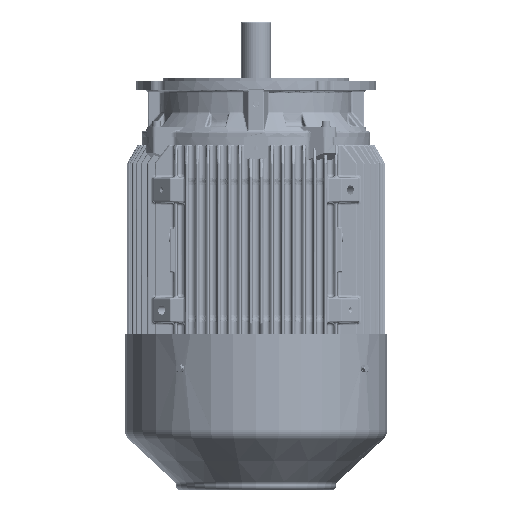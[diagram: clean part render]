
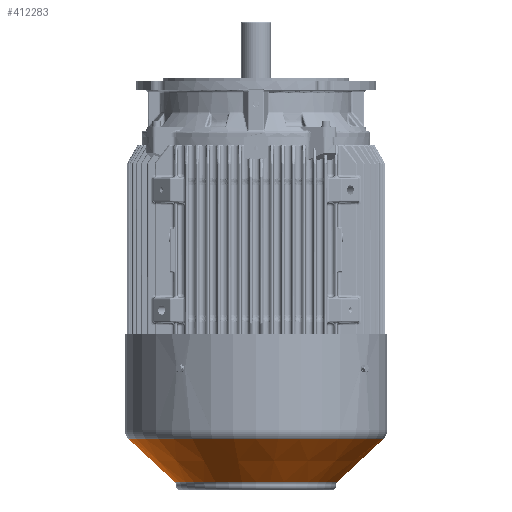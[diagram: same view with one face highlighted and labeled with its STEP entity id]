
A CAD part, front view. The second image highlights one B-rep face of the part: STEP entity #412283.
In plain terms, the highlighted conical face has half-angle 47 degrees and reference radius 152.544 mm.
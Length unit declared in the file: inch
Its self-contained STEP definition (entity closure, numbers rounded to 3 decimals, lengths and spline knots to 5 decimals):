
#23706 = EDGE_CURVE ( 'NONE', #149684, #278022, #447444, .T. ) ;
#52197 = EDGE_LOOP ( 'NONE', ( #348780, #286276, #327964, #424627 ) ) ;
#76951 = CARTESIAN_POINT ( 'NONE',  ( 9.35236, 0., -13.97297 ) ) ;
#81946 = CARTESIAN_POINT ( 'NONE',  ( 6.00567, 0., -17.09381 ) ) ;
#86023 = AXIS2_PLACEMENT_3D ( 'NONE', #98575, #355983, #250030 ) ;
#98575 = CARTESIAN_POINT ( 'NONE',  ( 0., 0., -17.09381 ) ) ;
#104312 = EDGE_CURVE ( 'NONE', #140787, #458358, #243752, .T. ) ;
#107944 = CARTESIAN_POINT ( 'NONE',  ( -6.00567, 0., -17.09381 ) ) ;
#140787 = VERTEX_POINT ( 'NONE', #81946 ) ;
#149684 = VERTEX_POINT ( 'NONE', #107944 ) ;
#182853 = CARTESIAN_POINT ( 'NONE',  ( -6.00567, 0., -17.09381 ) ) ;
#197283 = VECTOR ( 'NONE', #390546, 39.37008 ) ;
#213685 = VECTOR ( 'NONE', #262202, 39.37008 ) ;
#214647 = EDGE_CURVE ( 'NONE', #278022, #458358, #448356, .T. ) ;
#221737 = DIRECTION ( 'NONE',  ( 0., 0., 1. ) ) ;
#224153 = DIRECTION ( 'NONE',  ( 1., 0., 0. ) ) ;
#224369 = CIRCLE ( 'NONE', #86023, 6.00567 ) ;
#234856 = FACE_OUTER_BOUND ( 'NONE', #52197, .T. ) ;
#243752 = LINE ( 'NONE', #465112, #197283 ) ;
#250030 = DIRECTION ( 'NONE',  ( 1., 0., 0. ) ) ;
#260280 = CARTESIAN_POINT ( 'NONE',  ( 0., 0., -13.97297 ) ) ;
#262202 = DIRECTION ( 'NONE',  ( -0.731, 0., 0.682 ) ) ;
#278022 = VERTEX_POINT ( 'NONE', #372008 ) ;
#286276 = ORIENTED_EDGE ( 'NONE', *, *, #292768, .T. ) ;
#292768 = EDGE_CURVE ( 'NONE', #149684, #140787, #224369, .T. ) ;
#307934 = AXIS2_PLACEMENT_3D ( 'NONE', #458574, #381637, #309505 ) ;
#309505 = DIRECTION ( 'NONE',  ( 1., 0., 0. ) ) ;
#327964 = ORIENTED_EDGE ( 'NONE', *, *, #104312, .T. ) ;
#348780 = ORIENTED_EDGE ( 'NONE', *, *, #23706, .F. ) ;
#355983 = DIRECTION ( 'NONE',  ( 0., 0., 1. ) ) ;
#372008 = CARTESIAN_POINT ( 'NONE',  ( -9.35236, 0., -13.97297 ) ) ;
#381637 = DIRECTION ( 'NONE',  ( 0., 0., 1. ) ) ;
#390546 = DIRECTION ( 'NONE',  ( 0.731, 0., 0.682 ) ) ;
#392383 = CONICAL_SURFACE ( 'NONE', #307934, 6.00567, 0.82 ) ;
#412283 = ADVANCED_FACE ( 'NONE', ( #234856 ), #392383, .T. ) ;
#424627 = ORIENTED_EDGE ( 'NONE', *, *, #214647, .F. ) ;
#447444 = LINE ( 'NONE', #182853, #213685 ) ;
#448356 = CIRCLE ( 'NONE', #455859, 9.35236 ) ;
#455859 = AXIS2_PLACEMENT_3D ( 'NONE', #260280, #221737, #224153 ) ;
#458358 = VERTEX_POINT ( 'NONE', #76951 ) ;
#458574 = CARTESIAN_POINT ( 'NONE',  ( 0., 0., -17.09381 ) ) ;
#465112 = CARTESIAN_POINT ( 'NONE',  ( 6.00567, 0., -17.09381 ) ) ;
